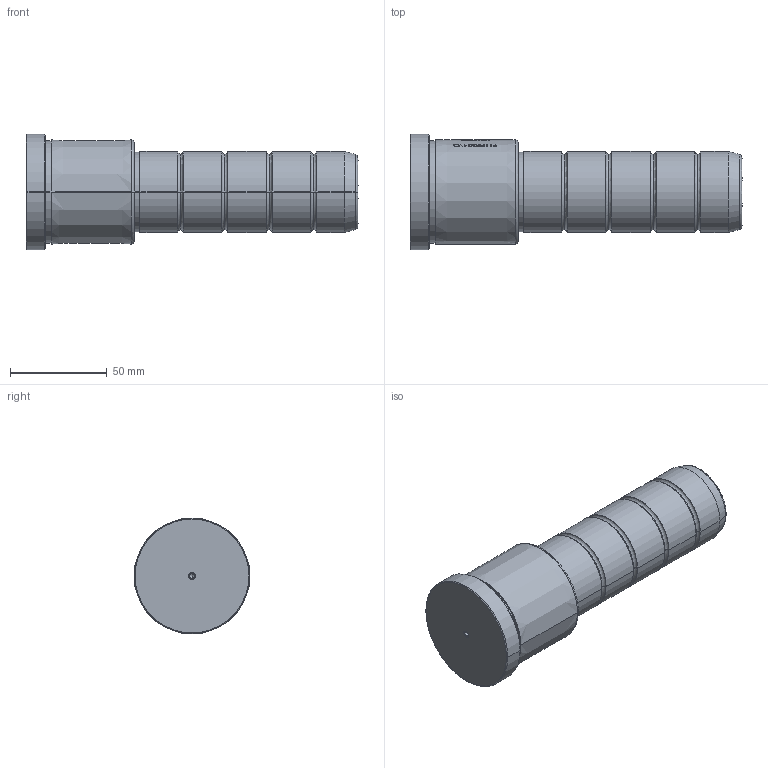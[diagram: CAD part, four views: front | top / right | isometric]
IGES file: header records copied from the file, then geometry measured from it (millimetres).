
Start section: SolidWorks IGES file using analytic representation for surfaces
Global section: file name: D:\TRIVECTOR\2026\08_Agosto\CM - COLUNA PRINCIPAL E31 (CATÁLOGO)\CM42056116.IGS; native system: SolidWorks 2024; preprocessor: SolidWorks 2024; author: Usuario; date: 260831.175122; units: millimetre
Bounding box: 172 x 60 x 60 mm (x, y, z)
Surface area: 31352.5 mm2 (no closed solid volume)
Topology: 0 solids, 0 shells, 480 faces, 5582 edges, 5578 vertices
Faces by surface type: bspline 395, revolution 85
